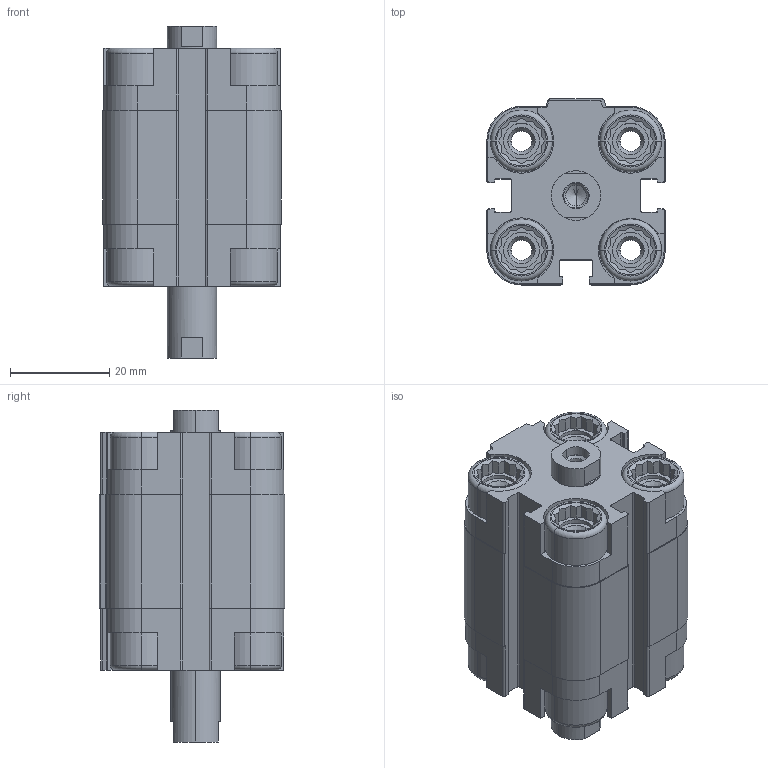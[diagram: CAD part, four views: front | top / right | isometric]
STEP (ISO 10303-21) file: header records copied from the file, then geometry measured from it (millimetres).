
FILE_DESCRIPTION (( 'STEP AP203' ), '1' );
FILE_NAME ('CDVU20-10F-P.STEP', '2020-07-24T18:06:46', ( '' ), ( '' ), 'SwSTEP 2.0', 'SolidWorks 2019', '' );
FILE_SCHEMA (( 'CONFIG_CONTROL_DESIGN' ));
Length unit declared in the file: millimetre
Products named in the file (1): CDVU20-10F-P
Bounding box: 36 x 37.5 x 67 mm (x, y, z)
Volume: 47455.1 mm3; surface area: 22956.9 mm2
Topology: 2 solids, 2 shells, 606 faces, 1598 edges, 1032 vertices
Faces by surface type: plane 358, cylinder 184, cone 48, torus 16
Entity records: 18877 total; most frequent: CARTESIAN_POINT 3805, ORIENTED_EDGE 3180, DIRECTION 3060, EDGE_CURVE 1590, AXIS2_PLACEMENT_3D 1055, VERTEX_POINT 1032, VECTOR 950, LINE 950
